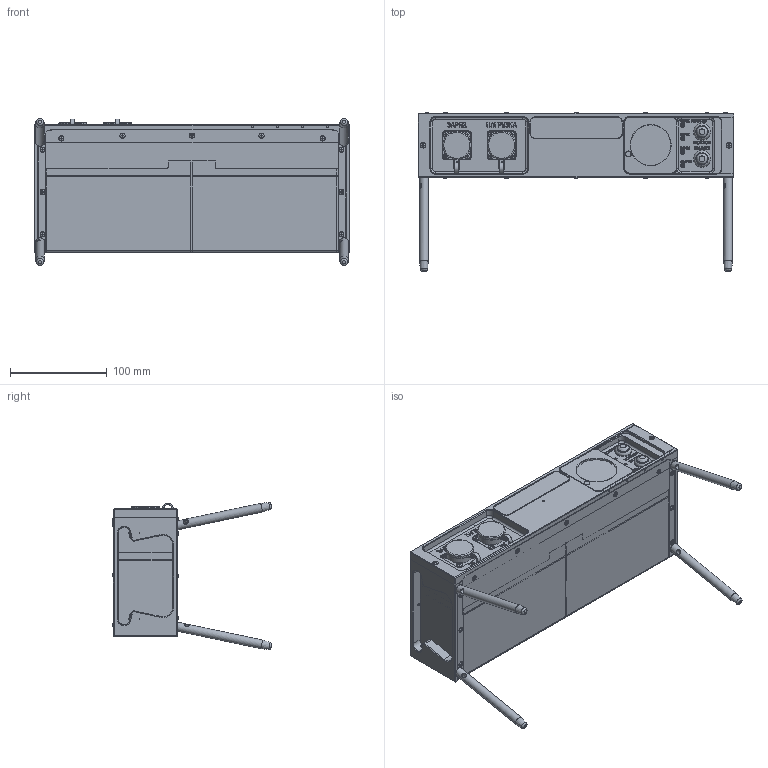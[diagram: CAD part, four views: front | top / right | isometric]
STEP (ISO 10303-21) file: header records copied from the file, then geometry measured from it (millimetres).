
FILE_DESCRIPTION(/* description */ (''),/* implementation_level */ '2;1');
FILE_NAME(/* name */ 'D:\Project\ptk\SB5\Блок накопительный\SB TL с ножками.stp',/* time_stamp */ '2024-12-26T11:02:54+03:00',/* author */ ('znnsp'),/* organization */ (''),/* preprocessor_version */ 'ST-DEVELOPER v18.1',/* originating_system */ 'Autodesk Inventor 2021',/* authorisation */ '');
FILE_SCHEMA (('AUTOMOTIVE_DESIGN { 1 0 10303 214 3 1 1 }'));
Products named in the file (24): SB TL с ножками; SB TL; Панель; Кусочек панели; Боковина; Боковина_ЗЕРКАЛО2; Держатель аккумулятора; ISO 7047 (Z) - M3x20 - 4.8 - Z; Шторка; Аккумулятор 1
2В 7.2А; ISO 7046-2 Z - M3x5 - 8.8 - Z1; ISO 7047 (Z) - M3x5 - 4.8 - Z; Магнит D4x1; RP8200B2M1CEBLKBLKNIL; Кожух_24 отверстия; LEM-20 (42107); Шильд TL SB4; SA2013-S5-1C С надетой 
крышкой; SA2013-S5-1C-1; Прокладка для 
разъема; Крышка для 
разъема; Резиночка для 
крышечки; DIN 7985 (Z) - M3x6-Z; Ножка
Assembly tree (65 placements, depth 4):
  SB TL с ножками
    SB TL
      Панель
      Кусочек панели
      Боковина
      Боковина_ЗЕРКАЛО2
      Держатель аккумулятора
      ISO 7047 (Z) - M3x20 - 4.8 - Z  x3
      Шторка
      Магнит D4x1  x3
      Аккумулятор 1
2В 7.2А  x2
      ISO 7047 (Z) - M3x5 - 4.8 - Z  x22
      ISO 7046-2 Z - M3x5 - 8.8 - Z1  x2
      RP8200B2M1CEBLKBLKNIL  x2
      Кожух_24 отверстия
      LEM-20 (42107)  x4
      Шильд TL SB4
      SA2013-S5-1C С надетой 
крышкой  x2
        SA2013-S5-1C-1
        Прокладка для 
разъема
        Крышка для 
разъема
        Резиночка для 
крышечки
      DIN 7985 (Z) - M3x6-Z  x8
    Ножка  x4
Bounding box: 327 x 164.77 x 152.19 mm (x, y, z)
Volume: 2257046 mm3; surface area: 511716.4 mm2
Topology: 66 solids, 66 shells, 3327 faces, 8143 edges, 5185 vertices
Faces by surface type: plane 1664, cylinder 630, bspline 624, cone 227, torus 109, sphere 73
Full cylindrical faces by diameter (mm): 0.433 x4, 1 x12, 1.3 x4, 1.4 x10, 1.8 x4, 2 x20, 2.167 x4, 2.5 x64, 2.75 x8, 3 x37, 3.033 x4, 3.2 x18, 3.3 x1, 3.4 x1, 3.9 x4, 4 x4, 4.3 x4, 4.35 x4, 4.5 x4, 5.5 x27, 6 x3, 6.2 x3, 6.7 x8, 8 x4, 9.1 x4, 9.7 x4, 9.8 x1, 10 x2, 11.898 x2, 12.3 x2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
Entity records: 71959 total; most frequent: CARTESIAN_POINT 19494, ORIENTED_EDGE 11190, DIRECTION 8688, EDGE_CURVE 5595, VERTEX_POINT 3634, LINE 3328, VECTOR 3328, AXIS2_PLACEMENT_3D 2680
